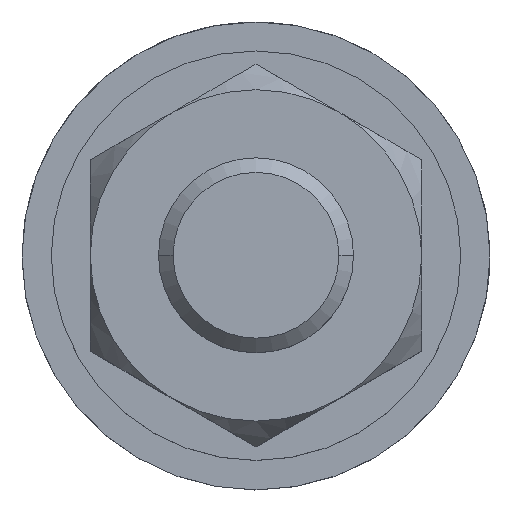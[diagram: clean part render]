
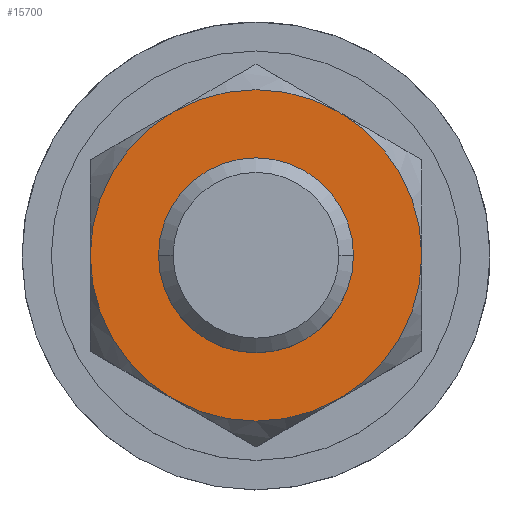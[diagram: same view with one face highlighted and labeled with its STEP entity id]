
A CAD part, top view. The second image highlights one B-rep face of the part: STEP entity #15700.
In plain terms, the highlighted planar face has unit normal (0, 0, 1).
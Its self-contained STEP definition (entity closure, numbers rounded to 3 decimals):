
#14010=CARTESIAN_POINT('',(51.076,31.149,8.));
#14020=VERTEX_POINT('',#14010);
#14050=CARTESIAN_POINT('',(46.826,38.51,8.));
#14060=DIRECTION('',(0.,0.,-1.));
#14070=DIRECTION('',(1.,0.,0.));
#14080=AXIS2_PLACEMENT_3D('',#14050,#14060,#14070);
#14090=CIRCLE('',#14080,8.5);
#14100=CARTESIAN_POINT('',(55.326,38.51,8.));
#14110=VERTEX_POINT('',#14100);
#14120=EDGE_CURVE('',#14110,#14020,#14090,.T.);
#15290=CARTESIAN_POINT('',(0.,0.,8.));
#15300=DIRECTION('',(0.,0.,1.));
#15310=DIRECTION('',(1.,0.,0.));
#15320=AXIS2_PLACEMENT_3D('',#15290,#15300,#15310);
#15330=PLANE('',#15320);
#15340=CARTESIAN_POINT('',(42.576,31.149,8.));
#15350=VERTEX_POINT('',#15340);
#15360=CARTESIAN_POINT('',(38.326,38.51,8.));
#15370=VERTEX_POINT('',#15360);
#15380=EDGE_CURVE('',#15350,#15370,#14090,.T.);
#15390=ORIENTED_EDGE('',*,*,#15380,.F.);
#15400=CARTESIAN_POINT('',(42.576,45.871,8.));
#15410=VERTEX_POINT('',#15400);
#15420=EDGE_CURVE('',#15370,#15410,#14090,.T.);
#15430=ORIENTED_EDGE('',*,*,#15420,.F.);
#15440=CARTESIAN_POINT('',(51.076,45.871,8.));
#15450=VERTEX_POINT('',#15440);
#15460=EDGE_CURVE('',#15410,#15450,#14090,.T.);
#15470=ORIENTED_EDGE('',*,*,#15460,.F.);
#15480=EDGE_CURVE('',#15450,#14110,#14090,.T.);
#15490=ORIENTED_EDGE('',*,*,#15480,.F.);
#15500=ORIENTED_EDGE('',*,*,#14120,.F.);
#15510=EDGE_CURVE('',#14020,#15350,#14090,.T.);
#15520=ORIENTED_EDGE('',*,*,#15510,.F.);
#15530=EDGE_LOOP('',(#15520,#15500,#15490,#15470,#15430,#15390));
#15540=FACE_OUTER_BOUND('',#15530,.T.);
#15550=CARTESIAN_POINT('',(46.826,38.51,8.));
#15560=DIRECTION('',(0.,0.,-1.));
#15570=DIRECTION('',(1.,0.,0.));
#15580=AXIS2_PLACEMENT_3D('',#15550,#15560,#15570);
#15590=CIRCLE('',#15580,5.);
#15600=CARTESIAN_POINT('',(51.826,38.51,8.));
#15610=VERTEX_POINT('',#15600);
#15620=CARTESIAN_POINT('',(41.826,38.51,8.));
#15630=VERTEX_POINT('',#15620);
#15640=EDGE_CURVE('',#15610,#15630,#15590,.T.);
#15650=ORIENTED_EDGE('',*,*,#15640,.T.);
#15660=EDGE_CURVE('',#15630,#15610,#15590,.T.);
#15670=ORIENTED_EDGE('',*,*,#15660,.T.);
#15680=EDGE_LOOP('',(#15670,#15650));
#15690=FACE_BOUND('',#15680,.T.);
#15700=ADVANCED_FACE('',(#15540,#15690),#15330,.T.);
